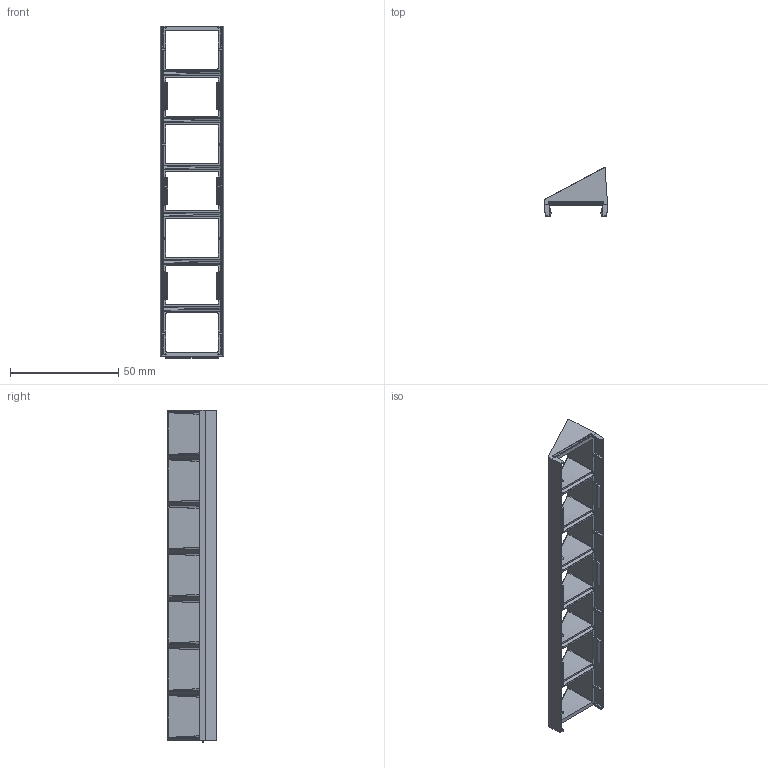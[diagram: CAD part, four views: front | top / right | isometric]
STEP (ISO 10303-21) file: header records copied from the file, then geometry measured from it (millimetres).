
FILE_DESCRIPTION (( 'STEP AP214' ), '1' );
FILE_NAME ('LVR-000010-00 REV D.STEP', '2022-09-16T15:06:56', ( '' ), ( '' ), 'SwSTEP 2.0', 'SolidWorks 2020', '' );
FILE_SCHEMA (( 'AUTOMOTIVE_DESIGN' ));
Length unit declared in the file: inch
Products named in the file (1): LVR-000010-00 REV D
Bounding box: 29.21 x 22.35 x 153.29 mm (x, y, z)
Volume: 9957 mm3; surface area: 18390 mm2
Topology: 1 solids, 1 shells, 924 faces, 2192 edges, 1232 vertices
Faces by surface type: cylinder 366, bspline 306, plane 174, sphere 76, torus 2
Entity records: 32072 total; most frequent: CARTESIAN_POINT 12103, ORIENTED_EDGE 4312, DIRECTION 3314, EDGE_CURVE 2156, AXIS2_PLACEMENT_3D 1243, VERTEX_POINT 1232, EDGE_LOOP 936, ADVANCED_FACE 924
